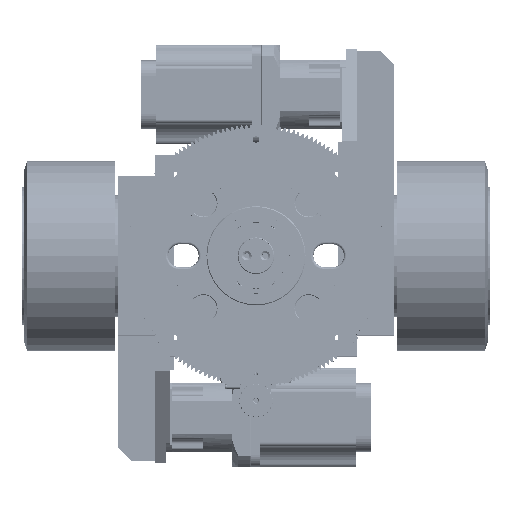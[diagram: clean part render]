
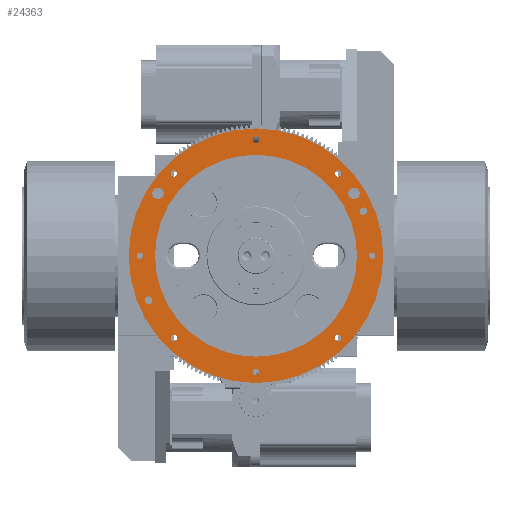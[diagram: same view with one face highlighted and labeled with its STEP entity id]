
A CAD part, top view. The second image highlights one B-rep face of the part: STEP entity #24363.
In plain terms, the highlighted planar face has unit normal (0, 0, 1).
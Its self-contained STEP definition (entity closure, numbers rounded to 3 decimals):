
#18945=PLANE('',#110106);
#24363=ADVANCED_FACE('',(#31573,#31574,#31575,#31576,#31577,#31578,#31579,
#31580,#31581,#31582,#31583,#31584,#31585,#31586),#18945,.T.);
#31573=FACE_BOUND('',#39453,.T.);
#31574=FACE_BOUND('',#39454,.T.);
#31575=FACE_BOUND('',#39455,.T.);
#31576=FACE_BOUND('',#39456,.T.);
#31577=FACE_BOUND('',#39457,.T.);
#31578=FACE_BOUND('',#39458,.T.);
#31579=FACE_BOUND('',#39459,.T.);
#31580=FACE_BOUND('',#39460,.T.);
#31581=FACE_BOUND('',#39461,.T.);
#31582=FACE_BOUND('',#39462,.T.);
#31583=FACE_BOUND('',#39463,.T.);
#31584=FACE_BOUND('',#39464,.T.);
#31585=FACE_BOUND('',#39465,.T.);
#31586=FACE_BOUND('',#39466,.T.);
#39453=EDGE_LOOP('',(#62883));
#39454=EDGE_LOOP('',(#62884));
#39455=EDGE_LOOP('',(#62885));
#39456=EDGE_LOOP('',(#62886));
#39457=EDGE_LOOP('',(#62887));
#39458=EDGE_LOOP('',(#62888));
#39459=EDGE_LOOP('',(#62889));
#39460=EDGE_LOOP('',(#62890));
#39461=EDGE_LOOP('',(#62891));
#39462=EDGE_LOOP('',(#62892));
#39463=EDGE_LOOP('',(#62893));
#39464=EDGE_LOOP('',(#62894));
#39465=EDGE_LOOP('',(#62895));
#39466=EDGE_LOOP('',(#62896));
#62883=ORIENTED_EDGE('',*,*,#88494,.F.);
#62884=ORIENTED_EDGE('',*,*,#88495,.F.);
#62885=ORIENTED_EDGE('',*,*,#88496,.F.);
#62886=ORIENTED_EDGE('',*,*,#88476,.F.);
#62887=ORIENTED_EDGE('',*,*,#88478,.T.);
#62888=ORIENTED_EDGE('',*,*,#88480,.T.);
#62889=ORIENTED_EDGE('',*,*,#88482,.T.);
#62890=ORIENTED_EDGE('',*,*,#88484,.T.);
#62891=ORIENTED_EDGE('',*,*,#88486,.T.);
#62892=ORIENTED_EDGE('',*,*,#88488,.T.);
#62893=ORIENTED_EDGE('',*,*,#88490,.T.);
#62894=ORIENTED_EDGE('',*,*,#88492,.T.);
#62895=ORIENTED_EDGE('',*,*,#88497,.T.);
#62896=ORIENTED_EDGE('',*,*,#88498,.T.);
#75454=VERTEX_POINT('',#184097);
#75456=VERTEX_POINT('',#184102);
#75458=VERTEX_POINT('',#184107);
#75460=VERTEX_POINT('',#184112);
#75462=VERTEX_POINT('',#184117);
#75464=VERTEX_POINT('',#184122);
#75466=VERTEX_POINT('',#184127);
#75468=VERTEX_POINT('',#184132);
#75470=VERTEX_POINT('',#184137);
#75472=VERTEX_POINT('',#184142);
#75473=VERTEX_POINT('',#184144);
#75474=VERTEX_POINT('',#184146);
#75475=VERTEX_POINT('',#184148);
#75476=VERTEX_POINT('',#184150);
#88476=EDGE_CURVE('',#75454,#75454,#97834,.T.);
#88478=EDGE_CURVE('',#75456,#75456,#97836,.T.);
#88480=EDGE_CURVE('',#75458,#75458,#97838,.T.);
#88482=EDGE_CURVE('',#75460,#75460,#97840,.T.);
#88484=EDGE_CURVE('',#75462,#75462,#97842,.T.);
#88486=EDGE_CURVE('',#75464,#75464,#97844,.T.);
#88488=EDGE_CURVE('',#75466,#75466,#97846,.T.);
#88490=EDGE_CURVE('',#75468,#75468,#97848,.T.);
#88492=EDGE_CURVE('',#75470,#75470,#97850,.T.);
#88494=EDGE_CURVE('',#75472,#75472,#97852,.T.);
#88495=EDGE_CURVE('',#75473,#75473,#97853,.T.);
#88496=EDGE_CURVE('',#75474,#75474,#97854,.T.);
#88497=EDGE_CURVE('',#75475,#75475,#97855,.T.);
#88498=EDGE_CURVE('',#75476,#75476,#97856,.T.);
#97834=CIRCLE('',#110074,132.5);
#97836=CIRCLE('',#110077,4.25);
#97838=CIRCLE('',#110080,4.25);
#97840=CIRCLE('',#110083,4.25);
#97842=CIRCLE('',#110086,4.25);
#97844=CIRCLE('',#110089,4.25);
#97846=CIRCLE('',#110092,4.25);
#97848=CIRCLE('',#110095,4.25);
#97850=CIRCLE('',#110098,4.25);
#97852=CIRCLE('',#110101,167.);
#97853=CIRCLE('',#110102,7.5);
#97854=CIRCLE('',#110103,7.5);
#97855=CIRCLE('',#110104,5.);
#97856=CIRCLE('',#110105,5.);
#110074=AXIS2_PLACEMENT_3D('',#184096,#138632,#138633);
#110077=AXIS2_PLACEMENT_3D('',#184101,#138638,#138639);
#110080=AXIS2_PLACEMENT_3D('',#184106,#138644,#138645);
#110083=AXIS2_PLACEMENT_3D('',#184111,#138650,#138651);
#110086=AXIS2_PLACEMENT_3D('',#184116,#138656,#138657);
#110089=AXIS2_PLACEMENT_3D('',#184121,#138662,#138663);
#110092=AXIS2_PLACEMENT_3D('',#184126,#138668,#138669);
#110095=AXIS2_PLACEMENT_3D('',#184131,#138674,#138675);
#110098=AXIS2_PLACEMENT_3D('',#184136,#138680,#138681);
#110101=AXIS2_PLACEMENT_3D('',#184141,#138686,#138687);
#110102=AXIS2_PLACEMENT_3D('',#184143,#138688,#138689);
#110103=AXIS2_PLACEMENT_3D('',#184145,#138690,#138691);
#110104=AXIS2_PLACEMENT_3D('',#184147,#138692,#138693);
#110105=AXIS2_PLACEMENT_3D('',#184149,#138694,#138695);
#110106=AXIS2_PLACEMENT_3D('',#184151,#138696,#138697);
#138632=DIRECTION('',(0.,0.,1.));
#138633=DIRECTION('',(0.,1.,0.));
#138638=DIRECTION('',(0.,0.,-1.));
#138639=DIRECTION('',(0.,-1.,0.));
#138644=DIRECTION('',(0.,0.,-1.));
#138645=DIRECTION('',(0.,-1.,0.));
#138650=DIRECTION('',(0.,0.,-1.));
#138651=DIRECTION('',(0.,-1.,0.));
#138656=DIRECTION('',(0.,0.,-1.));
#138657=DIRECTION('',(1.,0.,0.));
#138662=DIRECTION('',(0.,0.,-1.));
#138663=DIRECTION('',(0.,-1.,0.));
#138668=DIRECTION('',(0.,0.,-1.));
#138669=DIRECTION('',(0.,-1.,0.));
#138674=DIRECTION('',(0.,0.,-1.));
#138675=DIRECTION('',(1.,0.,0.));
#138680=DIRECTION('',(0.,0.,-1.));
#138681=DIRECTION('',(0.,-1.,0.));
#138686=DIRECTION('',(0.,0.,-1.));
#138687=DIRECTION('',(0.,-1.,0.));
#138688=DIRECTION('',(0.,0.,1.));
#138689=DIRECTION('',(0.676,-0.737,0.));
#138690=DIRECTION('',(0.,0.,1.));
#138691=DIRECTION('',(0.676,0.737,0.));
#138692=DIRECTION('',(0.,0.,-1.));
#138693=DIRECTION('',(0.,-1.,0.));
#138694=DIRECTION('',(0.,0.,-1.));
#138695=DIRECTION('',(0.,-1.,0.));
#138696=DIRECTION('',(0.,0.,1.));
#138697=DIRECTION('',(0.,1.,0.));
#184096=CARTESIAN_POINT('',(0.,0.,0.));
#184097=CARTESIAN_POINT('',(0.,132.5,0.));
#184101=CARTESIAN_POINT('',(152.5,0.,0.));
#184102=CARTESIAN_POINT('',(152.5,-4.25,0.));
#184106=CARTESIAN_POINT('',(-152.5,0.,0.));
#184107=CARTESIAN_POINT('',(-152.5,-4.25,0.));
#184111=CARTESIAN_POINT('',(107.834,-107.834,0.));
#184112=CARTESIAN_POINT('',(107.834,-112.084,0.));
#184116=CARTESIAN_POINT('',(0.,-152.5,0.));
#184117=CARTESIAN_POINT('',(4.25,-152.5,0.));
#184121=CARTESIAN_POINT('',(-107.834,-107.834,0.));
#184122=CARTESIAN_POINT('',(-107.834,-112.084,0.));
#184126=CARTESIAN_POINT('',(-107.834,107.834,0.));
#184127=CARTESIAN_POINT('',(-107.834,103.584,0.));
#184131=CARTESIAN_POINT('',(0.,152.5,0.));
#184132=CARTESIAN_POINT('',(4.25,152.5,0.));
#184136=CARTESIAN_POINT('',(107.834,107.834,0.));
#184137=CARTESIAN_POINT('',(107.834,103.584,0.));
#184141=CARTESIAN_POINT('',(0.,0.,0.));
#184142=CARTESIAN_POINT('',(0.,-167.,0.));
#184143=CARTESIAN_POINT('',(128.617,81.938,0.));
#184144=CARTESIAN_POINT('',(133.684,76.409,0.));
#184145=CARTESIAN_POINT('',(-128.617,81.938,0.));
#184146=CARTESIAN_POINT('',(-123.55,87.468,0.));
#184147=CARTESIAN_POINT('',(-140.892,-58.359,0.));
#184148=CARTESIAN_POINT('',(-140.892,-63.359,0.));
#184149=CARTESIAN_POINT('',(140.892,58.359,0.));
#184150=CARTESIAN_POINT('',(140.892,53.359,0.));
#184151=CARTESIAN_POINT('',(0.,0.,0.));
